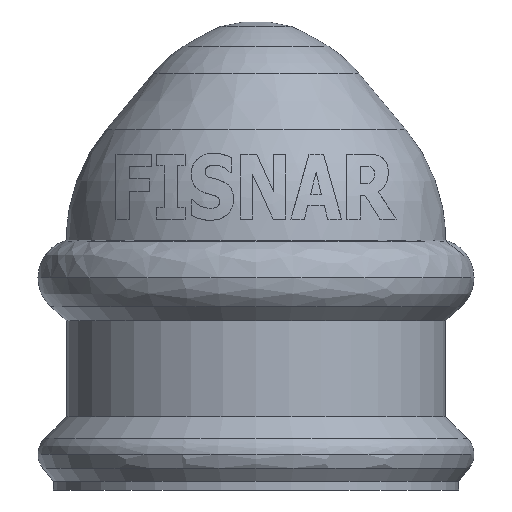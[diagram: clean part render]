
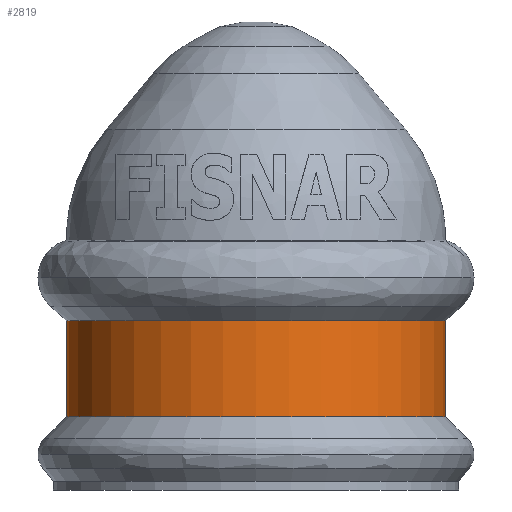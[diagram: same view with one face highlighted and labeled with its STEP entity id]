
A CAD part, front view. The second image highlights one B-rep face of the part: STEP entity #2819.
In plain terms, the highlighted cylindrical face has radius 4.4 mm (diameter 8.8 mm), a partial arc.
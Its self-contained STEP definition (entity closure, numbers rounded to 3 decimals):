
#275 = EDGE_LOOP ( 'NONE', ( #6774, #2697, #1661, #6304 ) ) ;
#545 = CARTESIAN_POINT ( 'NONE',  ( 0., 0., 1.7 ) ) ;
#780 = CARTESIAN_POINT ( 'NONE',  ( 4.4, 0., 5.447 ) ) ;
#830 = VERTEX_POINT ( 'NONE', #4115 ) ;
#925 = VERTEX_POINT ( 'NONE', #4353 ) ;
#1084 = LINE ( 'NONE', #3365, #6301 ) ;
#1556 = VERTEX_POINT ( 'NONE', #5548 ) ;
#1647 = CIRCLE ( 'NONE', #2599, 4.4 ) ;
#1661 = ORIENTED_EDGE ( 'NONE', *, *, #6090, .T. ) ;
#1717 = DIRECTION ( 'NONE',  ( 0., 0., -1. ) ) ;
#1729 = CIRCLE ( 'NONE', #6731, 4.4 ) ;
#2011 = VERTEX_POINT ( 'NONE', #2683 ) ;
#2407 = DIRECTION ( 'NONE',  ( 0., 0., -1. ) ) ;
#2480 = AXIS2_PLACEMENT_3D ( 'NONE', #2757, #6091, #6161 ) ;
#2599 = AXIS2_PLACEMENT_3D ( 'NONE', #6924, #2407, #6997 ) ;
#2683 = CARTESIAN_POINT ( 'NONE',  ( -4.4, 0., 3.928 ) ) ;
#2697 = ORIENTED_EDGE ( 'NONE', *, *, #7063, .F. ) ;
#2757 = CARTESIAN_POINT ( 'NONE',  ( 0., 0., 5.447 ) ) ;
#2759 = EDGE_CURVE ( 'NONE', #830, #2011, #1647, .T. ) ;
#2819 = ADVANCED_FACE ( 'NONE', ( #6238 ), #4990, .T. ) ;
#2820 = EDGE_CURVE ( 'NONE', #1556, #2011, #1084, .T. ) ;
#3365 = CARTESIAN_POINT ( 'NONE',  ( -4.4, 0., 5.447 ) ) ;
#4115 = CARTESIAN_POINT ( 'NONE',  ( 4.4, 0., 3.928 ) ) ;
#4353 = CARTESIAN_POINT ( 'NONE',  ( 4.4, 0., 1.7 ) ) ;
#4990 = CYLINDRICAL_SURFACE ( 'NONE', #2480, 4.4 ) ;
#5326 = VECTOR ( 'NONE', #7165, 1000. ) ;
#5548 = CARTESIAN_POINT ( 'NONE',  ( -4.4, 0., 1.7 ) ) ;
#5646 = DIRECTION ( 'NONE',  ( 0., 0., 1. ) ) ;
#5910 = LINE ( 'NONE', #780, #5326 ) ;
#6090 = EDGE_CURVE ( 'NONE', #925, #830, #5910, .T. ) ;
#6091 = DIRECTION ( 'NONE',  ( 0., 0., 1. ) ) ;
#6161 = DIRECTION ( 'NONE',  ( 1., 0., 0. ) ) ;
#6238 = FACE_OUTER_BOUND ( 'NONE', #275, .T. ) ;
#6301 = VECTOR ( 'NONE', #5646, 1000. ) ;
#6304 = ORIENTED_EDGE ( 'NONE', *, *, #2759, .T. ) ;
#6731 = AXIS2_PLACEMENT_3D ( 'NONE', #545, #1717, #7360 ) ;
#6774 = ORIENTED_EDGE ( 'NONE', *, *, #2820, .F. ) ;
#6924 = CARTESIAN_POINT ( 'NONE',  ( 0., 0., 3.928 ) ) ;
#6997 = DIRECTION ( 'NONE',  ( 1., 0., 0. ) ) ;
#7063 = EDGE_CURVE ( 'NONE', #925, #1556, #1729, .T. ) ;
#7165 = DIRECTION ( 'NONE',  ( 0., 0., 1. ) ) ;
#7360 = DIRECTION ( 'NONE',  ( -1., 0., 0. ) ) ;
